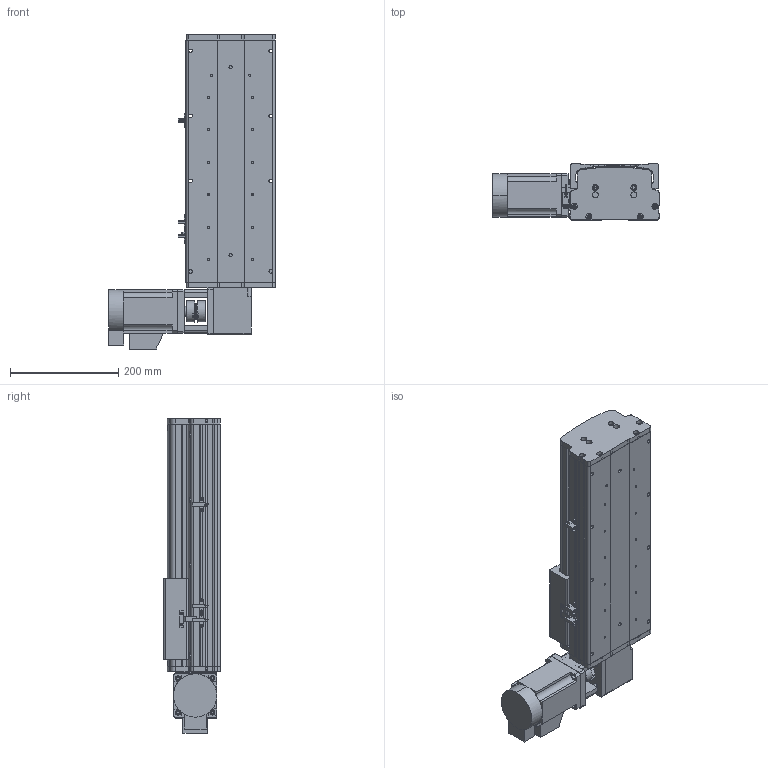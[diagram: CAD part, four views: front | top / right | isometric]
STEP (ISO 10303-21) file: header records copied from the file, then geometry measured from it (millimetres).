
FILE_DESCRIPTION (( 'STEP AP214' ), '1' );
FILE_NAME ('KSD165B-S200-MRT-CM.STEP', '2017-10-17T01:02:41', ( '微软用户' ), ( '微软中国' ), 'SwSTEP 2.0', 'SolidWorks 2014', '' );
FILE_SCHEMA (( 'AUTOMOTIVE_DESIGN' ));
Length unit declared in the file: millimetre
Products named in the file (16): 覜茼え68遵圉猾敕; KSD165模组-同步带-防撞垫2; KSD165模组同步带-防撞垫1; KSD165耀郪-ヶ傷啣1-肮祭湍; KSD165模组-后端板1-同步带; 130宽马达安装板1-带电机座750W（1）; KSD165模组-同步带滑动座-最新版; KSD165B-S200-MRT-CM; 165宽马达安装板同步带左-改; KSD165模组-同步带防尘盖1-200行程-最新版; KSD165模组同步带底板-200行程-最新; 拸秶雄ん750W侜督萇儂; 165宽安装板同步带带电机座750W; C39ㄜ1419WP; U倰嫖萇假蚾璃; U倰嫖萇EEㄜSX672
Assembly tree (19 placements, depth 2):
  KSD165B-S200-MRT-CM
    KSD165模组-同步带滑动座-最新版
    130宽马达安装板1-带电机座750W（1）
    KSD165模组-后端板1-同步带
    KSD165耀郪-ヶ傷啣1-肮祭湍
    KSD165模组同步带-防撞垫1
    KSD165模组-同步带-防撞垫2
    覜茼え68遵圉猾敕
    U倰嫖萇EEㄜSX672  x3
    U倰嫖萇假蚾璃  x3
    C39ㄜ1419WP
    165宽安装板同步带带电机座750W
    拸秶雄ん750W侜督萇儂
    KSD165模组同步带底板-200行程-最新
    KSD165模组-同步带防尘盖1-200行程-最新版
    165宽马达安装板同步带左-改
Bounding box: 307.5 x 104 x 581.06 mm (x, y, z)
Volume: 4277109.4 mm3; surface area: 931063.1 mm2
Topology: 20 solids, 21 shells, 1392 faces, 3846 edges, 2485 vertices
Faces by surface type: cylinder 729, plane 569, cone 94
Entity records: 43195 total; most frequent: CARTESIAN_POINT 9067, DIRECTION 6764, ORIENTED_EDGE 6344, EDGE_CURVE 3172, AXIS2_PLACEMENT_3D 2550, VERTEX_POINT 2077, LINE 1664, VECTOR 1664
